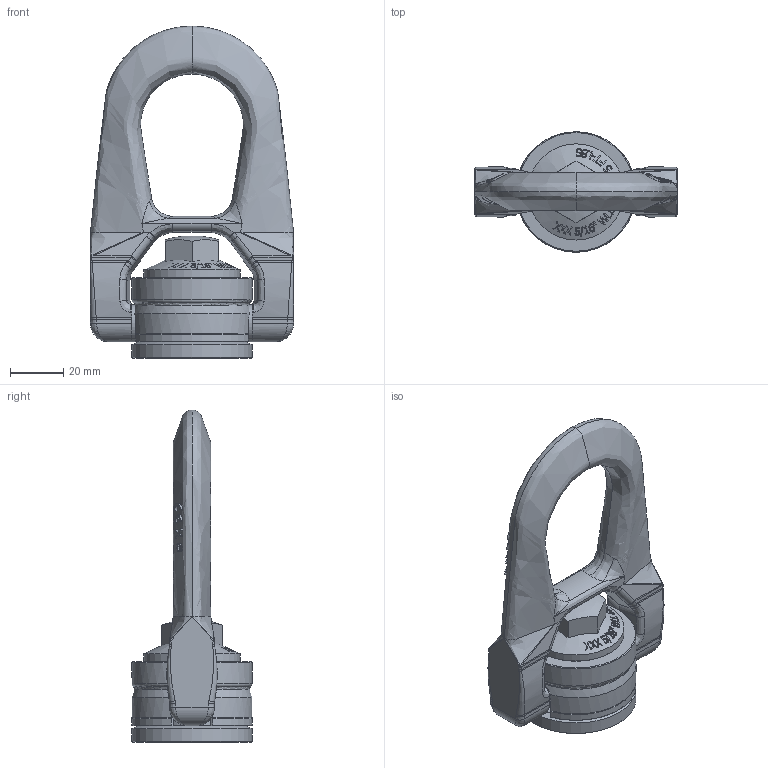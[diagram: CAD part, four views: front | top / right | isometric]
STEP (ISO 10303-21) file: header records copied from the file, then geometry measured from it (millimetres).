
FILE_DESCRIPTION(/* description */ (''),/* implementation_level */ '2;1');
FILE_NAME(/* name */ 'W:\CODIPRO\DOCUMENTS\Plans A NE PAS DIFFUSER !!!\Inventor\Standard Inventor\Produit Fini Inventor\SS_FE_DSR\Fichiers 3D\SS FE DSR U516.stp',/* time_stamp */ '2017-10-06T08:35:21+02:00',/* author */ ('rklenes'),/* organization */ (''),/* preprocessor_version */ 'ST-DEVELOPER v16.5',/* originating_system */ 'Autodesk Inventor 2017',/* authorisation */ '');
FILE_SCHEMA (('AUTOMOTIVE_DESIGN { 1 0 10303 214 3 1 1 }'));
Products named in the file (5): FE DSR U516; SS_FE_DRA_U516; DRB_B2B; DRM_AF2B-1; SS_FE_DRE_D2M20A
Assembly tree (4 placements, depth 2):
  FE DSR U516
    SS_FE_DRA_U516
    DRB_B2B
    DRM_AF2B-1
    SS_FE_DRE_D2M20A
Bounding box: 76 x 45 x 124.25 mm (x, y, z)
Volume: 106810.1 mm3; surface area: 36223.4 mm2
Topology: 4 solids, 4 shells, 909 faces, 2404 edges, 1545 vertices
Faces by surface type: bspline 398, plane 372, cylinder 81, cone 46, torus 11, sphere 1
Full cylindrical faces by diameter (mm): 6.401 x1, 14 x2, 19.85 x3, 20.05 x1, 22.6 x2, 23 x2, 32 x1, 36 x1, 45 x2
Entity records: 48886 total; most frequent: CARTESIAN_POINT 29257, ORIENTED_EDGE 4700, DIRECTION 2934, EDGE_CURVE 2350, VERTEX_POINT 1536, AXIS2_PLACEMENT_3D 1044, EDGE_LOOP 1002, FACE_OUTER_BOUND 908
